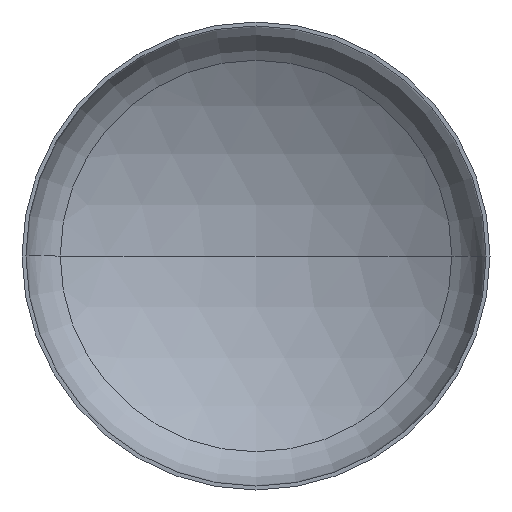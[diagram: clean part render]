
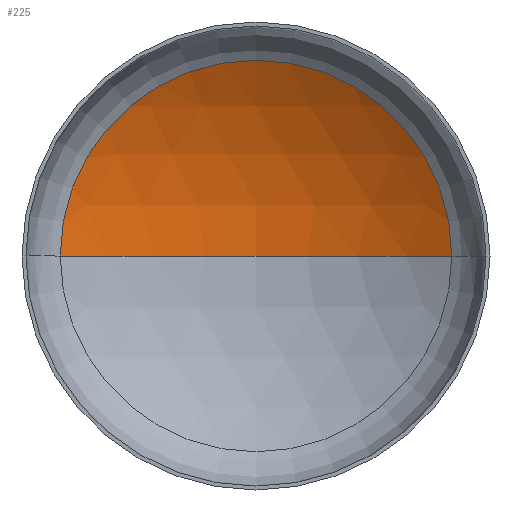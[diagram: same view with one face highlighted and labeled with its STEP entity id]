
A CAD part, front view. The second image highlights one B-rep face of the part: STEP entity #225.
In plain terms, the highlighted spherical face has radius 4400 mm.
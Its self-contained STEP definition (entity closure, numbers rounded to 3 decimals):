
#5 = VERTEX_POINT ( 'NONE', #10 ) ;
#10 = CARTESIAN_POINT ( 'NONE',  ( 2300.872, 860.26, 0. ) ) ;
#40 = CARTESIAN_POINT ( 'NONE',  ( 0., -2890.205, 0. ) ) ;
#46 = ORIENTED_EDGE ( 'NONE', *, *, #90, .F. ) ;
#47 = VERTEX_POINT ( 'NONE', #270 ) ;
#48 = DIRECTION ( 'NONE',  ( -1., 0., 0. ) ) ;
#49 = VERTEX_POINT ( 'NONE', #248 ) ;
#63 = EDGE_CURVE ( 'NONE', #5, #47, #167, .T. ) ;
#71 = ORIENTED_EDGE ( 'NONE', *, *, #77, .T. ) ;
#77 = EDGE_CURVE ( 'NONE', #49, #5, #291, .T. ) ;
#90 = EDGE_CURVE ( 'NONE', #49, #47, #345, .T. ) ;
#92 = DIRECTION ( 'NONE',  ( 1., 0., 0. ) ) ;
#94 = FACE_OUTER_BOUND ( 'NONE', #385, .T. ) ;
#138 = CARTESIAN_POINT ( 'NONE',  ( 0., -2890.205, 0. ) ) ;
#167 = CIRCLE ( 'NONE', #317, 2300.872 ) ;
#176 = ORIENTED_EDGE ( 'NONE', *, *, #63, .T. ) ;
#178 = DIRECTION ( 'NONE',  ( -1., 0., 0. ) ) ;
#224 = AXIS2_PLACEMENT_3D ( 'NONE', #408, #386, #48 ) ;
#225 = ADVANCED_FACE ( 'NONE', ( #94 ), #259, .F. ) ;
#227 = CARTESIAN_POINT ( 'NONE',  ( 0., 860.26, 0. ) ) ;
#248 = CARTESIAN_POINT ( 'NONE',  ( 0., 1509.795, 0. ) ) ;
#256 = DIRECTION ( 'NONE',  ( 1., 0., 0. ) ) ;
#259 = SPHERICAL_SURFACE ( 'NONE', #224, 4400. ) ;
#270 = CARTESIAN_POINT ( 'NONE',  ( -2300.872, 860.26, 0. ) ) ;
#279 = DIRECTION ( 'NONE',  ( 0., 0., 1. ) ) ;
#291 = CIRCLE ( 'NONE', #328, 4400. ) ;
#317 = AXIS2_PLACEMENT_3D ( 'NONE', #227, #403, #256 ) ;
#326 = DIRECTION ( 'NONE',  ( 0., 0., -1. ) ) ;
#328 = AXIS2_PLACEMENT_3D ( 'NONE', #138, #326, #178 ) ;
#345 = CIRCLE ( 'NONE', #367, 4400. ) ;
#367 = AXIS2_PLACEMENT_3D ( 'NONE', #40, #279, #92 ) ;
#385 = EDGE_LOOP ( 'NONE', ( #46, #71, #176 ) ) ;
#386 = DIRECTION ( 'NONE',  ( 0., 0., -1. ) ) ;
#403 = DIRECTION ( 'NONE',  ( 0., -1., 0. ) ) ;
#408 = CARTESIAN_POINT ( 'NONE',  ( 0., -2890.205, 0. ) ) ;
